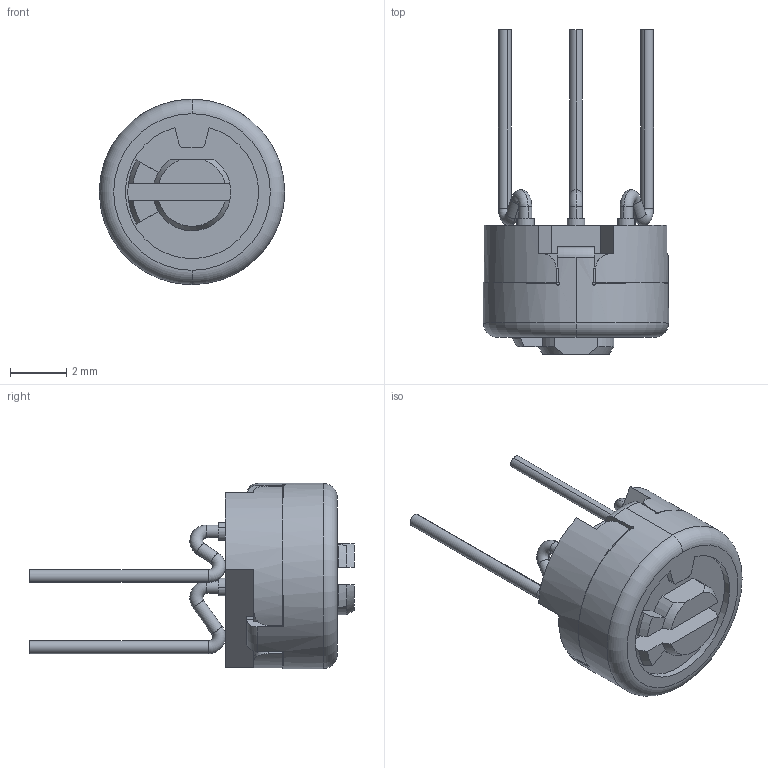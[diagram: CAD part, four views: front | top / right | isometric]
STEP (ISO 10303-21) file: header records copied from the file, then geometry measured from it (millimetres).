
FILE_DESCRIPTION((''),'2;1');
FILE_NAME('3329P-1','2023-05-17T15:00:41',('RICKB'),('Bourns, Inc.'),'CREO PARAMETRIC BY PTC INC, 2018050','CREO PARAMETRIC BY PTC INC, 2018050','');
FILE_SCHEMA(('AUTOMOTIVE_DESIGN { 1 0 10303 214 1 1 1 1 }'));
Length unit declared in the file: inch
Products named in the file (1): 3329P-1
Bounding box: 6.6 x 11.58 x 6.6 mm (x, y, z)
Volume: 87.7 mm3; surface area: 327.5 mm2
Topology: 1 solids, 1 shells, 159 faces, 434 edges, 276 vertices
Faces by surface type: plane 78, cylinder 52, torus 24, cone 5
Entity records: 6703 total; most frequent: CARTESIAN_POINT 1209, DIRECTION 883, ORIENTED_EDGE 868, PRESENTATION_STYLE_ASSIGNMENT 435, STYLED_ITEM 435, CURVE_STYLE 434, EDGE_CURVE 434, AXIS2_PLACEMENT_3D 329
